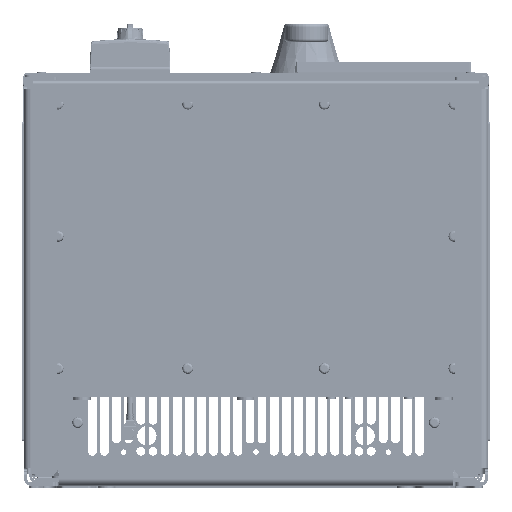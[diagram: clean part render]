
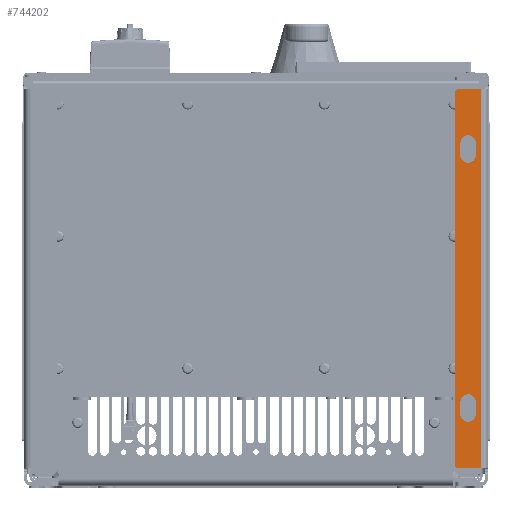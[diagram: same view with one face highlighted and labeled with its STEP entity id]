
A CAD part, front view. The second image highlights one B-rep face of the part: STEP entity #744202.
In plain terms, the highlighted planar face has unit normal (0, -1, 0).
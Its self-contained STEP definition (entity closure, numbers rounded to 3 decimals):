
#739047=DIRECTION('',(0.,0.,1.));
#739048=VECTOR('',#739047,344.);
#739049=CARTESIAN_POINT('',(204.4,-42.113,16.));
#739050=LINE('',#739049,#739048);
#739054=DIRECTION('',(0.,0.,1.));
#739055=VECTOR('',#739054,11.);
#739056=CARTESIAN_POINT('',(185.4,-42.113,300.));
#739057=LINE('',#739056,#739055);
#739061=CARTESIAN_POINT('',(192.4,-42.113,300.));
#739062=DIRECTION('',(0.,-1.,0.));
#739063=DIRECTION('',(-1.,0.,0.));
#739064=AXIS2_PLACEMENT_3D('',#739061,#739062,#739063);
#739069=DIRECTION('',(0.,0.,-1.));
#739070=VECTOR('',#739069,11.);
#739071=CARTESIAN_POINT('',(199.4,-42.113,311.));
#739072=LINE('',#739071,#739070);
#739076=CARTESIAN_POINT('',(192.4,-42.113,311.));
#739077=DIRECTION('',(0.,-1.,0.));
#739078=DIRECTION('',(1.,0.,0.));
#739079=AXIS2_PLACEMENT_3D('',#739076,#739077,#739078);
#739084=DIRECTION('',(0.,0.,1.));
#739085=VECTOR('',#739084,11.);
#739086=CARTESIAN_POINT('',(185.4,-42.113,65.));
#739087=LINE('',#739086,#739085);
#739091=CARTESIAN_POINT('',(192.4,-42.113,65.));
#739092=DIRECTION('',(0.,-1.,0.));
#739093=DIRECTION('',(-1.,0.,0.));
#739094=AXIS2_PLACEMENT_3D('',#739091,#739092,#739093);
#739099=DIRECTION('',(0.,0.,-1.));
#739100=VECTOR('',#739099,11.);
#739101=CARTESIAN_POINT('',(199.4,-42.113,76.));
#739102=LINE('',#739101,#739100);
#739106=CARTESIAN_POINT('',(192.4,-42.113,76.));
#739107=DIRECTION('',(0.,-1.,0.));
#739108=DIRECTION('',(1.,0.,0.));
#739109=AXIS2_PLACEMENT_3D('',#739106,#739107,#739108);
#739114=CARTESIAN_POINT('',(183.6,-42.113,19.2));
#739115=DIRECTION('',(0.,-1.,0.));
#739116=DIRECTION('',(-1.,0.,0.));
#739117=AXIS2_PLACEMENT_3D('',#739114,#739115,#739116);
#739122=DIRECTION('',(0.,0.,-1.));
#739123=VECTOR('',#739122,337.6);
#739124=CARTESIAN_POINT('',(180.4,-42.113,356.8));
#739125=LINE('',#739124,#739123);
#739129=CARTESIAN_POINT('',(183.6,-42.113,356.8));
#739130=DIRECTION('',(0.,-1.,0.));
#739131=DIRECTION('',(0.,0.,1.));
#739132=AXIS2_PLACEMENT_3D('',#739129,#739130,#739131);
#739137=DIRECTION('',(-1.,0.,0.));
#739138=VECTOR('',#739137,20.8);
#739139=CARTESIAN_POINT('',(204.4,-42.113,360.));
#739140=LINE('',#739139,#739138);
#739144=DIRECTION('',(1.,0.,0.));
#739145=VECTOR('',#739144,20.8);
#739146=CARTESIAN_POINT('',(183.6,-42.113,16.));
#739147=LINE('',#739146,#739145);
#742417=CARTESIAN_POINT('',(204.4,-42.113,16.));
#742418=CARTESIAN_POINT('',(204.4,-42.113,360.));
#742419=VERTEX_POINT('',#742417);
#742420=VERTEX_POINT('',#742418);
#742637=CARTESIAN_POINT('',(185.4,-42.113,300.));
#742638=CARTESIAN_POINT('',(185.4,-42.113,311.));
#742639=VERTEX_POINT('',#742637);
#742640=VERTEX_POINT('',#742638);
#742641=CARTESIAN_POINT('',(199.4,-42.113,311.));
#742642=VERTEX_POINT('',#742641);
#742643=CARTESIAN_POINT('',(199.4,-42.113,300.));
#742644=VERTEX_POINT('',#742643);
#742645=CARTESIAN_POINT('',(185.4,-42.113,65.));
#742646=CARTESIAN_POINT('',(185.4,-42.113,76.));
#742647=VERTEX_POINT('',#742645);
#742648=VERTEX_POINT('',#742646);
#742649=CARTESIAN_POINT('',(199.4,-42.113,76.));
#742650=VERTEX_POINT('',#742649);
#742651=CARTESIAN_POINT('',(199.4,-42.113,65.));
#742652=VERTEX_POINT('',#742651);
#742729=CARTESIAN_POINT('',(180.4,-42.113,19.2));
#742730=CARTESIAN_POINT('',(183.6,-42.113,16.));
#742731=VERTEX_POINT('',#742729);
#742732=VERTEX_POINT('',#742730);
#742761=CARTESIAN_POINT('',(183.6,-42.113,360.));
#742762=CARTESIAN_POINT('',(180.4,-42.113,356.8));
#742763=VERTEX_POINT('',#742761);
#742764=VERTEX_POINT('',#742762);
#744164=CARTESIAN_POINT('',(210.4,-42.113,365.));
#744165=DIRECTION('',(0.,-1.,0.));
#744166=DIRECTION('',(0.,0.,1.));
#744167=AXIS2_PLACEMENT_3D('',#744164,#744165,#744166);
#744168=PLANE('',#744167);
#744170=ORIENTED_EDGE('',*,*,#744169,.F.);
#744172=ORIENTED_EDGE('',*,*,#744171,.F.);
#744174=ORIENTED_EDGE('',*,*,#744173,.F.);
#744176=ORIENTED_EDGE('',*,*,#744175,.F.);
#744177=ORIENTED_EDGE('',*,*,#744157,.F.);
#744179=ORIENTED_EDGE('',*,*,#744178,.F.);
#744180=EDGE_LOOP('',(#744170,#744172,#744174,#744176,#744177,#744179));
#744181=FACE_OUTER_BOUND('',#744180,.F.);
#744183=ORIENTED_EDGE('',*,*,#744182,.F.);
#744185=ORIENTED_EDGE('',*,*,#744184,.T.);
#744187=ORIENTED_EDGE('',*,*,#744186,.F.);
#744189=ORIENTED_EDGE('',*,*,#744188,.T.);
#744190=EDGE_LOOP('',(#744183,#744185,#744187,#744189));
#744191=FACE_BOUND('',#744190,.F.);
#744193=ORIENTED_EDGE('',*,*,#744192,.F.);
#744195=ORIENTED_EDGE('',*,*,#744194,.T.);
#744197=ORIENTED_EDGE('',*,*,#744196,.F.);
#744199=ORIENTED_EDGE('',*,*,#744198,.T.);
#744200=EDGE_LOOP('',(#744193,#744195,#744197,#744199));
#744201=FACE_BOUND('',#744200,.F.);
#744202=ADVANCED_FACE('',(#744181,#744191,#744201),#744168,.T.);
#739065=CIRCLE('',#739064,7.);
#739080=CIRCLE('',#739079,7.);
#739095=CIRCLE('',#739094,7.);
#739110=CIRCLE('',#739109,7.);
#739118=CIRCLE('',#739117,3.2);
#739133=CIRCLE('',#739132,3.2);
#744157=EDGE_CURVE('',#742419,#742420,#739050,.T.);
#744169=EDGE_CURVE('',#742731,#742732,#739118,.T.);
#744171=EDGE_CURVE('',#742764,#742731,#739125,.T.);
#744173=EDGE_CURVE('',#742763,#742764,#739133,.T.);
#744175=EDGE_CURVE('',#742420,#742763,#739140,.T.);
#744178=EDGE_CURVE('',#742732,#742419,#739147,.T.);
#744182=EDGE_CURVE('',#742647,#742648,#739087,.T.);
#744184=EDGE_CURVE('',#742647,#742652,#739095,.T.);
#744186=EDGE_CURVE('',#742650,#742652,#739102,.T.);
#744188=EDGE_CURVE('',#742650,#742648,#739110,.T.);
#744192=EDGE_CURVE('',#742639,#742640,#739057,.T.);
#744194=EDGE_CURVE('',#742639,#742644,#739065,.T.);
#744196=EDGE_CURVE('',#742642,#742644,#739072,.T.);
#744198=EDGE_CURVE('',#742642,#742640,#739080,.T.);
